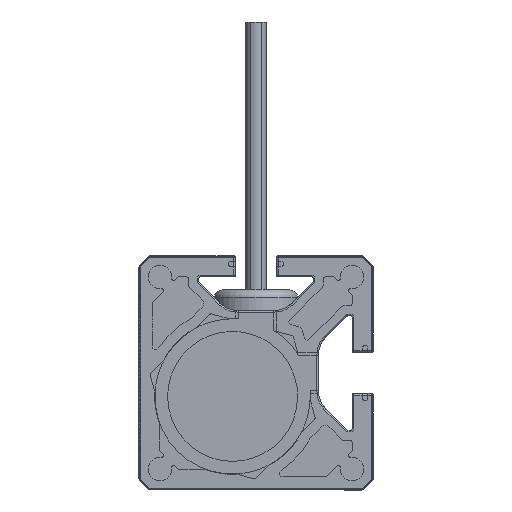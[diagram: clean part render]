
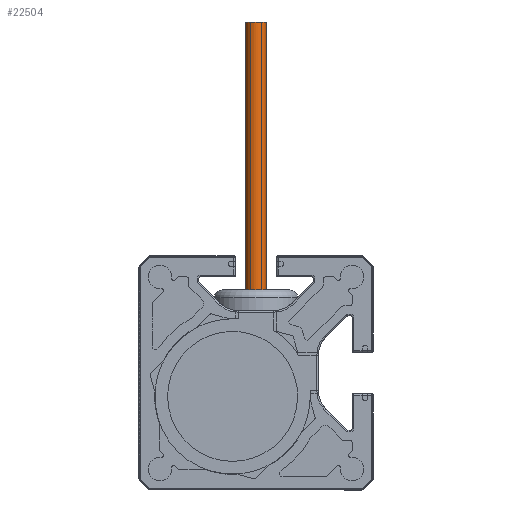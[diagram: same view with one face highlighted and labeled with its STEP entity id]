
A CAD part, front view. The second image highlights one B-rep face of the part: STEP entity #22504.
In plain terms, the highlighted cylindrical face has radius 2 mm (diameter 4 mm), a full revolution.
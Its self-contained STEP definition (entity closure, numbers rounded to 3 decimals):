
#4937=CYLINDRICAL_SURFACE('',#24896,2.);
#10618=ORIENTED_EDGE('',*,*,#14866,.T.);
#10619=ORIENTED_EDGE('',*,*,#14867,.F.);
#14866=EDGE_CURVE('',#17424,#17424,#18649,.T.);
#14867=EDGE_CURVE('',#17425,#17425,#18650,.T.);
#17424=VERTEX_POINT('',#38266);
#17425=VERTEX_POINT('',#38268);
#18649=CIRCLE('',#24897,2.);
#18650=CIRCLE('',#24898,2.);
#19889=EDGE_LOOP('',(#10618));
#19890=EDGE_LOOP('',(#10619));
#21217=FACE_BOUND('',#19889,.T.);
#21218=FACE_BOUND('',#19890,.T.);
#22504=ADVANCED_FACE('',(#21217,#21218),#4937,.T.);
#24896=AXIS2_PLACEMENT_3D('',#38264,#30416,#30417);
#24897=AXIS2_PLACEMENT_3D('',#38265,#30418,#30419);
#24898=AXIS2_PLACEMENT_3D('',#38267,#30420,#30421);
#30416=DIRECTION('',(0.,0.,-1.));
#30417=DIRECTION('',(-1.,0.,0.));
#30418=DIRECTION('',(0.,0.,-1.));
#30419=DIRECTION('',(1.,0.,0.));
#30420=DIRECTION('',(0.,0.,-1.));
#30421=DIRECTION('',(1.,0.,0.));
#38264=CARTESIAN_POINT('',(0.,0.,70.));
#38265=CARTESIAN_POINT('',(0.,0.,70.));
#38266=CARTESIAN_POINT('',(2.,0.,70.));
#38267=CARTESIAN_POINT('',(0.,0.,0.));
#38268=CARTESIAN_POINT('',(2.,0.,0.));
